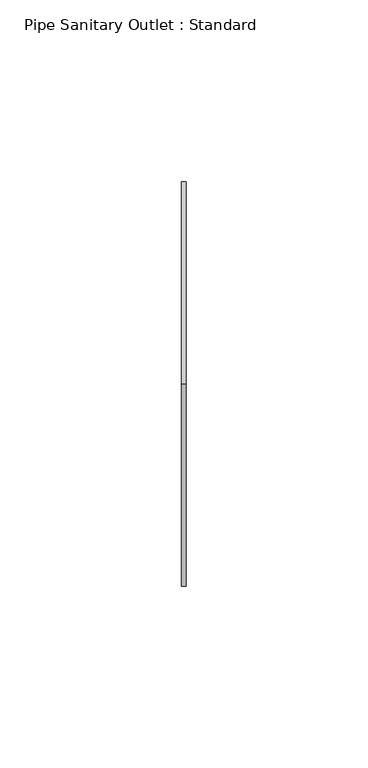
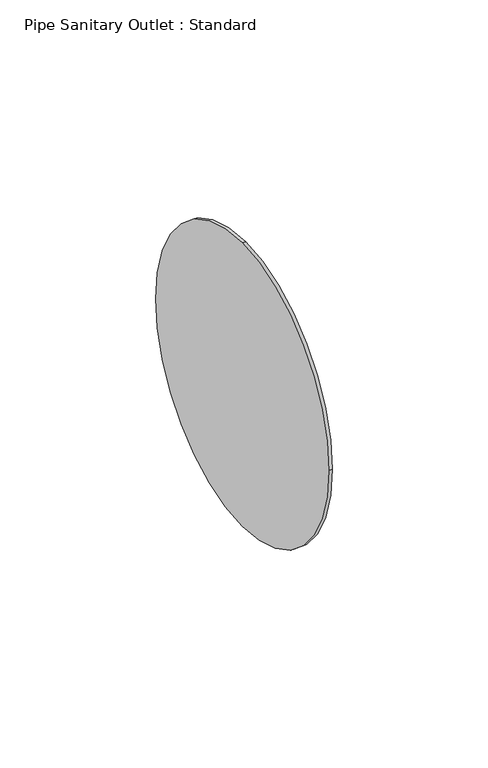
"""IFC4 building model written with IfcOpenShell, lengths in millimetres: proxy geometry, Pipe Sanitary Outlet : Standard."""

from ifc_helpers import new_model, si_unit, point, frame, origin, origin_2d, place, context, project, spatial, circle_curve, trimmed, segment, composite_curve, outline, extrude, source, transform, mapped, element, save


def pipe_sanitary_outlet_standard_9883e289(model_context):
    return source(origin(), model_context, "Body", "SweptSolid", [
        extrude(outline(composite_curve([segment(trimmed(circle_curve(origin_2d(), 55.5625), [point((0.0, 55.5625))], [point((55.5625, 0.0))], False, "CARTESIAN"), True, "CONTINUOUS"), segment(trimmed(circle_curve(origin_2d(), 55.5625), [point((55.5625, 0.0))], [point((0.0, -55.5625))], False, "CARTESIAN"), True, "CONTINUOUS"), segment(trimmed(circle_curve(origin_2d(), 55.5625), [point((0.0, -55.5625))], [point((-55.5625, 0.0))], False, "CARTESIAN"), True, "CONTINUOUS"), segment(trimmed(circle_curve(origin_2d(), 55.5625), [point((-55.5625, 0.0))], [point((0.0, 55.5625))], False, "CARTESIAN"), True, "CONTINUOUS")], self_intersect=False)), frame((0.0, 0.0, 0.0), z_axis=(1.0, 0.0, 0.0), x_axis=(0.0, 1.0, 0.0)), (0.0, 0.0, 1.0), 1.27),
        extrude(outline(composite_curve([segment(trimmed(circle_curve(origin_2d(), 55.5625), [point((0.0, 55.5625))], [point((55.5625, 0.0))], False, "CARTESIAN"), True, "CONTINUOUS"), segment(trimmed(circle_curve(origin_2d(), 55.5625), [point((55.5625, 0.0))], [point((0.0, -55.5625))], False, "CARTESIAN"), True, "CONTINUOUS"), segment(trimmed(circle_curve(origin_2d(), 55.5625), [point((0.0, -55.5625))], [point((-55.5625, 0.0))], False, "CARTESIAN"), True, "CONTINUOUS"), segment(trimmed(circle_curve(origin_2d(), 55.5625), [point((-55.5625, 0.0))], [point((0.0, 55.5625))], False, "CARTESIAN"), True, "CONTINUOUS")], self_intersect=False)), frame((0.0, 0.0, 0.0), z_axis=(1.0, 0.0, 0.0), x_axis=(0.0, 1.0, 0.0)), (0.0, 0.0, 1.0), 1.27),
    ])


if __name__ == "__main__":
    model = new_model("IFC4")
    model_context = context("Model", 3, world=origin())
    ifc_project = project(units=[si_unit("LENGTHUNIT", "METRE", prefix="MILLI")], contexts=[model_context])
    site = spatial("IfcSite", under=ifc_project)
    building = spatial("IfcBuilding", under=site)
    placement = place(None, origin())
    pipe_sanitary_outlet_standard_shape = pipe_sanitary_outlet_standard_9883e289(model_context)
    element("IfcBuildingElementProxy", 1, Name="Pipe Sanitary Outlet : Standard", ObjectType="Pipe Sanitary Outlet : Standard", at=placement, inside=building, context=model_context, shape_type="MappedRepresentation", body=[
        mapped(pipe_sanitary_outlet_standard_shape, transform((0.0, 0.0, 0.0), x_axis=(1.0, 0.0, 0.0), y_axis=(0.0, 1.0, 0.0), z_axis=(0.0, 0.0, 1.0))),
    ])
    save(model, "model.ifc")
